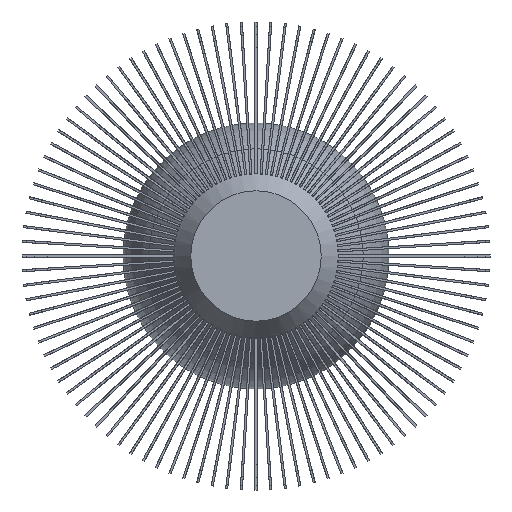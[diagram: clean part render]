
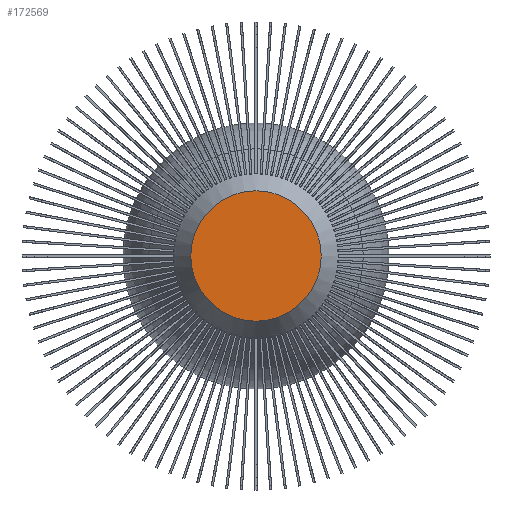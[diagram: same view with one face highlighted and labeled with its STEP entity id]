
A CAD part, front view. The second image highlights one B-rep face of the part: STEP entity #172569.
In plain terms, the highlighted planar face has unit normal (0, -1, 0).
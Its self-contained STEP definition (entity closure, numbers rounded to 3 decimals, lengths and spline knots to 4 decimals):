
#15626=FACE_OUTER_BOUND('',#26632,.T.);
#26632=EDGE_LOOP('',(#148523));
#64447=CIRCLE('',#190196,2.5);
#80469=VERTEX_POINT('',#291896);
#104491=EDGE_CURVE('',#80469,#80469,#64447,.T.);
#148523=ORIENTED_EDGE('',*,*,#104491,.F.);
#162566=PLANE('',#190195);
#172569=ADVANCED_FACE('',(#15626),#162566,.T.);
#190195=AXIS2_PLACEMENT_3D('',#291895,#241844,#241845);
#190196=AXIS2_PLACEMENT_3D('',#291897,#241846,#241847);
#241844=DIRECTION('center_axis',(0.,-1.,0.));
#241845=DIRECTION('ref_axis',(0.,0.,-1.));
#241846=DIRECTION('center_axis',(0.,1.,0.));
#241847=DIRECTION('ref_axis',(1.,0.,0.));
#291895=CARTESIAN_POINT('Origin',(-2.5,0.,0.));
#291896=CARTESIAN_POINT('',(-2.5,0.,0.));
#291897=CARTESIAN_POINT('Origin',(0.,0.,0.));
